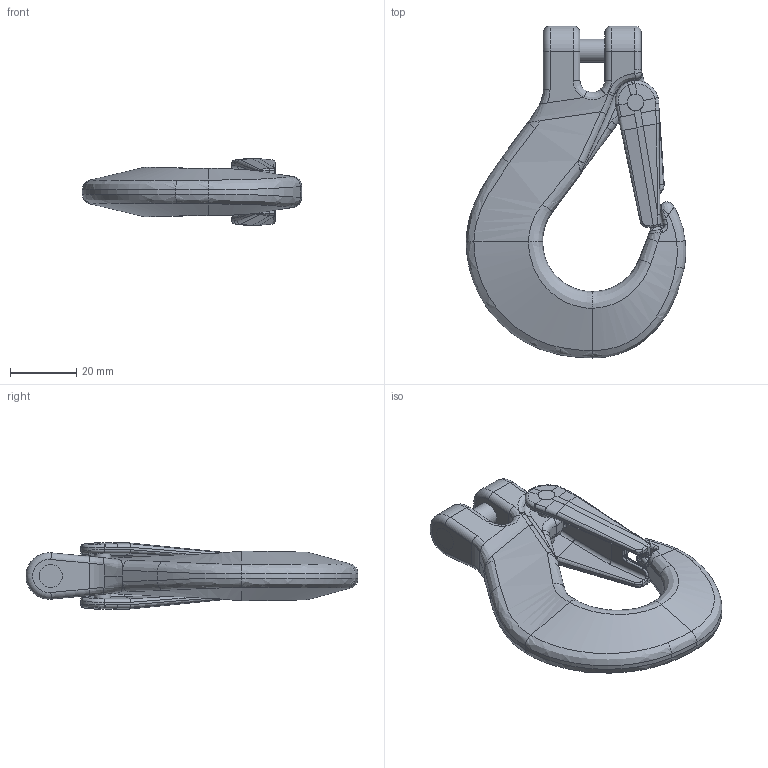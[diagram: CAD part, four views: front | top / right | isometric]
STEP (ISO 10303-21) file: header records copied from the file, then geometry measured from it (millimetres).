
FILE_DESCRIPTION(/* description */ (''),/* implementation_level */ '2;1');
FILE_NAME(/* name */ 'KHSW 5_6 Kundenmodell',/* time_stamp */ '2009-07-27T08:21:27+02:00',/* author */ (''),/* organization */ (''),/* preprocessor_version */ 'ST-DEVELOPER v9',/* originating_system */ 'UGS - NX 4.0',/* authorisation */ '');
FILE_SCHEMA (('AUTOMOTIVE_DESIGN { 1 0 10303 214 1 1 1 1 }'));
Length unit declared in the file: millimetre
Products named in the file (1): rit0CF0fbqf
Bounding box: 66.14 x 100 x 20 mm (x, y, z)
Volume: 37095.1 mm3; surface area: 13857.3 mm2
Topology: 3 solids, 3 shells, 366 faces, 893 edges, 519 vertices
Faces by surface type: bspline 162, cylinder 105, plane 77, torus 12, sphere 6, extrusion 4
Full cylindrical faces by diameter (mm): 5 x4, 7 x3
Entity records: 17911 total; most frequent: CARTESIAN_POINT 10536, ORIENTED_EDGE 1734, DIRECTION 1297, EDGE_CURVE 867, AXIS2_PLACEMENT_3D 527, VERTEX_POINT 514, EDGE_LOOP 381, ADVANCED_FACE 366
